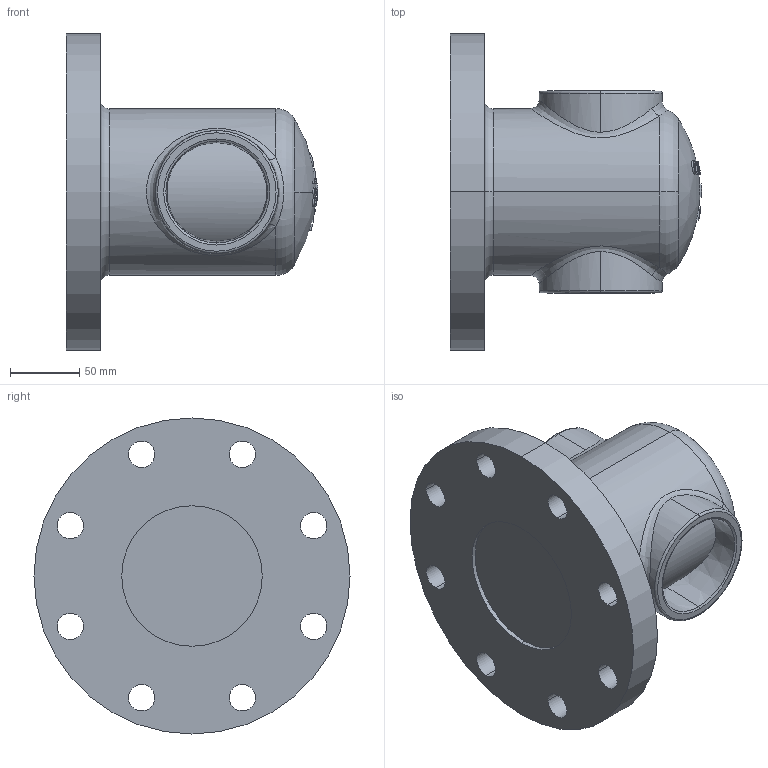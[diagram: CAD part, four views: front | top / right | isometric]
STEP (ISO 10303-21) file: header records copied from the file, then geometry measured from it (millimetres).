
FILE_DESCRIPTION (( 'STEP AP203' ), '1' );
FILE_NAME ('4in Test Header, 150A.STEP', '2019-06-06T19:55:24', ( '' ), ( '' ), 'SwSTEP 2.0', 'SolidWorks 2018', '' );
FILE_SCHEMA (( 'CONFIG_CONTROL_DESIGN' ));
Length unit declared in the file: inch
Products named in the file (1): 4in Test Header, 150A
Bounding box: 181.76 x 228.6 x 228.6 mm (x, y, z)
Volume: 2620337.4 mm3; surface area: 181714.7 mm2
Topology: 1 solids, 1 shells, 187 faces, 486 edges, 319 vertices
Faces by surface type: plane 87, bspline 30, cylinder 28, sphere 26, cone 8, torus 8
Entity records: 9311 total; most frequent: CARTESIAN_POINT 4591, DIRECTION 994, ORIENTED_EDGE 972, EDGE_CURVE 486, AXIS2_PLACEMENT_3D 426, VERTEX_POINT 319, CIRCLE 268, EDGE_LOOP 221
